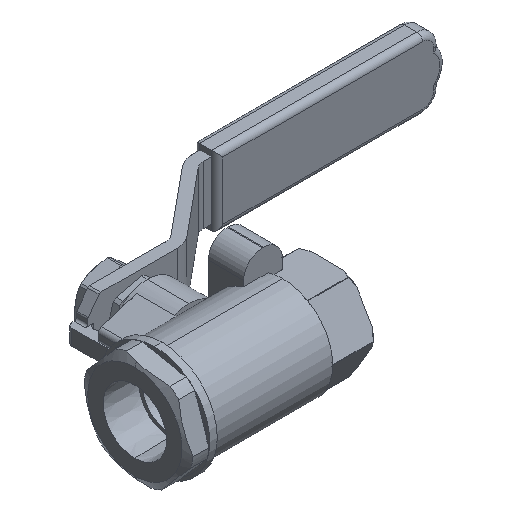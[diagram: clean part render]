
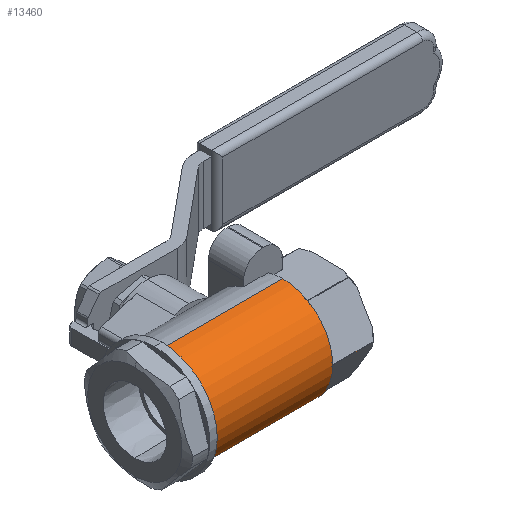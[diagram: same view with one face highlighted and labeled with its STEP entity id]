
A CAD part, isometric view. The second image highlights one B-rep face of the part: STEP entity #13460.
In plain terms, the highlighted cylindrical face has radius 13.462 mm (diameter 26.924 mm), a partial arc.
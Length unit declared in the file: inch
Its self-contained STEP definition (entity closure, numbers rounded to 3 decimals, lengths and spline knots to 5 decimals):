
#352 = CARTESIAN_POINT ( 'NONE',  ( -3.9438, -0.53, 0.00202 ) ) ;
#561 = DIRECTION ( 'NONE',  ( 1., 0., 0. ) ) ;
#744 = AXIS2_PLACEMENT_3D ( 'NONE', #17071, #8481, #18512 ) ;
#816 = CIRCLE ( 'NONE', #2808, 0.53 ) ;
#905 = LINE ( 'NONE', #9167, #3593 ) ;
#1077 = DIRECTION ( 'NONE',  ( -1., 0., 0. ) ) ;
#1379 = DIRECTION ( 'NONE',  ( 1., 0., 0. ) ) ;
#1598 = LINE ( 'NONE', #4662, #12451 ) ;
#1915 = VERTEX_POINT ( 'NONE', #8903 ) ;
#1980 = AXIS2_PLACEMENT_3D ( 'NONE', #9537, #1077, #10992 ) ;
#2027 = LINE ( 'NONE', #17123, #13116 ) ;
#2123 = DIRECTION ( 'NONE',  ( 1., 0., 0. ) ) ;
#2174 = EDGE_CURVE ( 'NONE', #13568, #5401, #816, .T. ) ;
#2180 = EDGE_LOOP ( 'NONE', ( #5308, #3209, #6186, #16395, #11752, #7117, #10815, #15980, #4828, #9405, #3789, #9792, #4210, #17189, #11427, #17725 ) ) ;
#2808 = AXIS2_PLACEMENT_3D ( 'NONE', #6607, #3832, #12309 ) ;
#2853 = DIRECTION ( 'NONE',  ( -1., 0., 0. ) ) ;
#2935 = EDGE_CURVE ( 'NONE', #10905, #1915, #15117, .T. ) ;
#3082 = CARTESIAN_POINT ( 'NONE',  ( 0.57, -0.26325, 0.46 ) ) ;
#3209 = ORIENTED_EDGE ( 'NONE', *, *, #2174, .T. ) ;
#3475 = AXIS2_PLACEMENT_3D ( 'NONE', #8131, #18158, #9554 ) ;
#3580 = VECTOR ( 'NONE', #1379, 39.37008 ) ;
#3593 = VECTOR ( 'NONE', #2123, 39.37008 ) ;
#3789 = ORIENTED_EDGE ( 'NONE', *, *, #12580, .T. ) ;
#3832 = DIRECTION ( 'NONE',  ( -1., 0., 0. ) ) ;
#3866 = LINE ( 'NONE', #5644, #16114 ) ;
#3898 = VERTEX_POINT ( 'NONE', #6025 ) ;
#3948 = AXIS2_PLACEMENT_3D ( 'NONE', #5915, #14414, #4473 ) ;
#3952 = EDGE_CURVE ( 'NONE', #13568, #5594, #1598, .T. ) ;
#3976 = EDGE_CURVE ( 'NONE', #7039, #9018, #7481, .T. ) ;
#4210 = ORIENTED_EDGE ( 'NONE', *, *, #9156, .T. ) ;
#4256 = CARTESIAN_POINT ( 'NONE',  ( 1., 0., 0. ) ) ;
#4293 = VECTOR ( 'NONE', #5075, 39.37008 ) ;
#4473 = DIRECTION ( 'NONE',  ( 0., 0., -1. ) ) ;
#4662 = CARTESIAN_POINT ( 'NONE',  ( -3.9438, 0., -0.53 ) ) ;
#4739 = CIRCLE ( 'NONE', #7026, 0.53 ) ;
#4814 = VERTEX_POINT ( 'NONE', #5948 ) ;
#4828 = ORIENTED_EDGE ( 'NONE', *, *, #16271, .T. ) ;
#5075 = DIRECTION ( 'NONE',  ( -1., 0., 0. ) ) ;
#5139 = CARTESIAN_POINT ( 'NONE',  ( 0.57, 0., 0. ) ) ;
#5308 = ORIENTED_EDGE ( 'NONE', *, *, #3952, .F. ) ;
#5317 = EDGE_CURVE ( 'NONE', #5594, #16017, #6113, .T. ) ;
#5401 = VERTEX_POINT ( 'NONE', #18208 ) ;
#5569 = CARTESIAN_POINT ( 'NONE',  ( -0.69977, 0., 0.53 ) ) ;
#5585 = EDGE_CURVE ( 'NONE', #9623, #14936, #17681, .T. ) ;
#5594 = VERTEX_POINT ( 'NONE', #17001 ) ;
#5644 = CARTESIAN_POINT ( 'NONE',  ( -3.9438, -0.26325, 0.46 ) ) ;
#5775 = DIRECTION ( 'NONE',  ( -1., 0., 0. ) ) ;
#5915 = CARTESIAN_POINT ( 'NONE',  ( 0.57, 0., 0. ) ) ;
#5948 = CARTESIAN_POINT ( 'NONE',  ( 1., -0.53, 0.00202 ) ) ;
#6025 = CARTESIAN_POINT ( 'NONE',  ( 1., -0.26675, 0.45798 ) ) ;
#6113 = CIRCLE ( 'NONE', #1980, 0.53 ) ;
#6186 = ORIENTED_EDGE ( 'NONE', *, *, #6525, .T. ) ;
#6209 = VERTEX_POINT ( 'NONE', #12978 ) ;
#6525 = EDGE_CURVE ( 'NONE', #5401, #10905, #15679, .T. ) ;
#6541 = DIRECTION ( 'NONE',  ( 0., 0., -1. ) ) ;
#6607 = CARTESIAN_POINT ( 'NONE',  ( 0.57, 0., 0. ) ) ;
#6804 = EDGE_CURVE ( 'NONE', #1915, #7039, #12504, .T. ) ;
#6949 = CARTESIAN_POINT ( 'NONE',  ( -3.9438, -0.26675, 0.45798 ) ) ;
#7026 = AXIS2_PLACEMENT_3D ( 'NONE', #5139, #15066, #6541 ) ;
#7039 = VERTEX_POINT ( 'NONE', #12428 ) ;
#7117 = ORIENTED_EDGE ( 'NONE', *, *, #3976, .T. ) ;
#7182 = VECTOR ( 'NONE', #8829, 39.37008 ) ;
#7481 = CIRCLE ( 'NONE', #3948, 0.53 ) ;
#8131 = CARTESIAN_POINT ( 'NONE',  ( 1., 0., 0. ) ) ;
#8247 = CARTESIAN_POINT ( 'NONE',  ( 1., -0.26325, 0.46 ) ) ;
#8418 = CARTESIAN_POINT ( 'NONE',  ( -3.9438, 0., 0. ) ) ;
#8481 = DIRECTION ( 'NONE',  ( -1., 0., 0. ) ) ;
#8596 = AXIS2_PLACEMENT_3D ( 'NONE', #4256, #9739, #8842 ) ;
#8691 = CARTESIAN_POINT ( 'NONE',  ( 1., -0.26325, -0.46 ) ) ;
#8829 = DIRECTION ( 'NONE',  ( -1., 0., 0. ) ) ;
#8842 = DIRECTION ( 'NONE',  ( 0., 0., 1. ) ) ;
#8903 = CARTESIAN_POINT ( 'NONE',  ( 1., -0.26675, -0.45798 ) ) ;
#9018 = VERTEX_POINT ( 'NONE', #16864 ) ;
#9156 = EDGE_CURVE ( 'NONE', #10782, #9623, #3866, .T. ) ;
#9167 = CARTESIAN_POINT ( 'NONE',  ( -3.9438, -0.53, -0.00202 ) ) ;
#9405 = ORIENTED_EDGE ( 'NONE', *, *, #17356, .T. ) ;
#9537 = CARTESIAN_POINT ( 'NONE',  ( -0.69977, 0., 0. ) ) ;
#9554 = DIRECTION ( 'NONE',  ( 0., 0., 1. ) ) ;
#9623 = VERTEX_POINT ( 'NONE', #3082 ) ;
#9739 = DIRECTION ( 'NONE',  ( -1., 0., 0. ) ) ;
#9792 = ORIENTED_EDGE ( 'NONE', *, *, #17856, .T. ) ;
#10248 = VERTEX_POINT ( 'NONE', #16536 ) ;
#10512 = CIRCLE ( 'NONE', #744, 0.53 ) ;
#10782 = VERTEX_POINT ( 'NONE', #8247 ) ;
#10815 = ORIENTED_EDGE ( 'NONE', *, *, #12081, .T. ) ;
#10905 = VERTEX_POINT ( 'NONE', #8691 ) ;
#10992 = DIRECTION ( 'NONE',  ( 0., 0., 1. ) ) ;
#11175 = LINE ( 'NONE', #352, #7182 ) ;
#11333 = CARTESIAN_POINT ( 'NONE',  ( 0.57, 0., 0. ) ) ;
#11345 = EDGE_CURVE ( 'NONE', #10248, #4814, #15796, .T. ) ;
#11427 = ORIENTED_EDGE ( 'NONE', *, *, #11828, .T. ) ;
#11752 = ORIENTED_EDGE ( 'NONE', *, *, #6804, .T. ) ;
#11828 = EDGE_CURVE ( 'NONE', #14936, #16017, #2027, .T. ) ;
#12081 = EDGE_CURVE ( 'NONE', #9018, #10248, #905, .T. ) ;
#12124 = CYLINDRICAL_SURFACE ( 'NONE', #18480, 0.53 ) ;
#12309 = DIRECTION ( 'NONE',  ( 0., 0., -1. ) ) ;
#12428 = CARTESIAN_POINT ( 'NONE',  ( 0.57, -0.26675, -0.45798 ) ) ;
#12451 = VECTOR ( 'NONE', #17377, 39.37008 ) ;
#12504 = LINE ( 'NONE', #16462, #4293 ) ;
#12580 = EDGE_CURVE ( 'NONE', #17881, #3898, #16031, .T. ) ;
#12649 = DIRECTION ( 'NONE',  ( 0., 0., 1. ) ) ;
#12779 = DIRECTION ( 'NONE',  ( 0., 0., -1. ) ) ;
#12835 = CARTESIAN_POINT ( 'NONE',  ( 0.57, 0., -0.53 ) ) ;
#12978 = CARTESIAN_POINT ( 'NONE',  ( 0.57, -0.53, 0.00202 ) ) ;
#13116 = VECTOR ( 'NONE', #5775, 39.37008 ) ;
#13460 = ADVANCED_FACE ( 'NONE', ( #16387 ), #12124, .T. ) ;
#13568 = VERTEX_POINT ( 'NONE', #12835 ) ;
#14414 = DIRECTION ( 'NONE',  ( -1., 0., 0. ) ) ;
#14418 = CARTESIAN_POINT ( 'NONE',  ( 0.57, 0., 0.53 ) ) ;
#14936 = VERTEX_POINT ( 'NONE', #14418 ) ;
#15066 = DIRECTION ( 'NONE',  ( -1., 0., 0. ) ) ;
#15117 = CIRCLE ( 'NONE', #8596, 0.53 ) ;
#15602 = CARTESIAN_POINT ( 'NONE',  ( 0.57, -0.26675, 0.45798 ) ) ;
#15679 = LINE ( 'NONE', #16159, #17488 ) ;
#15796 = CIRCLE ( 'NONE', #3475, 0.53 ) ;
#15980 = ORIENTED_EDGE ( 'NONE', *, *, #11345, .T. ) ;
#16017 = VERTEX_POINT ( 'NONE', #5569 ) ;
#16031 = LINE ( 'NONE', #6949, #3580 ) ;
#16114 = VECTOR ( 'NONE', #18502, 39.37008 ) ;
#16159 = CARTESIAN_POINT ( 'NONE',  ( -3.9438, -0.26325, -0.46 ) ) ;
#16271 = EDGE_CURVE ( 'NONE', #4814, #6209, #11175, .T. ) ;
#16387 = FACE_OUTER_BOUND ( 'NONE', #2180, .T. ) ;
#16395 = ORIENTED_EDGE ( 'NONE', *, *, #2935, .T. ) ;
#16462 = CARTESIAN_POINT ( 'NONE',  ( -3.9438, -0.26675, -0.45798 ) ) ;
#16536 = CARTESIAN_POINT ( 'NONE',  ( 1., -0.53, -0.00202 ) ) ;
#16864 = CARTESIAN_POINT ( 'NONE',  ( 0.57, -0.53, -0.00202 ) ) ;
#17001 = CARTESIAN_POINT ( 'NONE',  ( -0.69977, 0., -0.53 ) ) ;
#17071 = CARTESIAN_POINT ( 'NONE',  ( 1., 0., 0. ) ) ;
#17123 = CARTESIAN_POINT ( 'NONE',  ( -3.9438, 0., 0.53 ) ) ;
#17189 = ORIENTED_EDGE ( 'NONE', *, *, #5585, .T. ) ;
#17356 = EDGE_CURVE ( 'NONE', #6209, #17881, #4739, .T. ) ;
#17377 = DIRECTION ( 'NONE',  ( -1., 0., 0. ) ) ;
#17488 = VECTOR ( 'NONE', #561, 39.37008 ) ;
#17681 = CIRCLE ( 'NONE', #18216, 0.53 ) ;
#17725 = ORIENTED_EDGE ( 'NONE', *, *, #5317, .F. ) ;
#17856 = EDGE_CURVE ( 'NONE', #3898, #10782, #10512, .T. ) ;
#17881 = VERTEX_POINT ( 'NONE', #15602 ) ;
#18158 = DIRECTION ( 'NONE',  ( -1., 0., 0. ) ) ;
#18208 = CARTESIAN_POINT ( 'NONE',  ( 0.57, -0.26325, -0.46 ) ) ;
#18216 = AXIS2_PLACEMENT_3D ( 'NONE', #11333, #2853, #12779 ) ;
#18450 = DIRECTION ( 'NONE',  ( -1., 0., 0. ) ) ;
#18480 = AXIS2_PLACEMENT_3D ( 'NONE', #8418, #18450, #12649 ) ;
#18502 = DIRECTION ( 'NONE',  ( -1., 0., 0. ) ) ;
#18512 = DIRECTION ( 'NONE',  ( 0., 0., 1. ) ) ;
